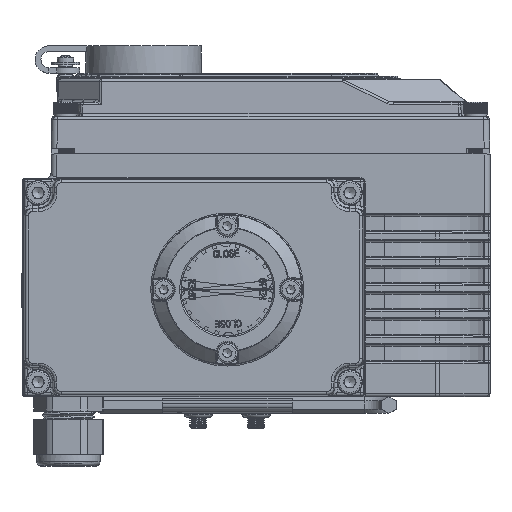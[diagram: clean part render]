
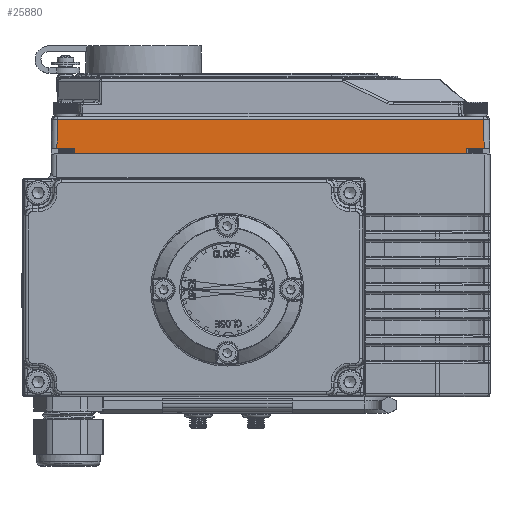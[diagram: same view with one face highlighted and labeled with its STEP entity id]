
A CAD part, top view. The second image highlights one B-rep face of the part: STEP entity #25880.
In plain terms, the highlighted planar face has unit normal (0, 0.018, 1).
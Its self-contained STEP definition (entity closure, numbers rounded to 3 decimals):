
#25880=ADVANCED_FACE('',(#81194),#81196,.T.);
#81194=FACE_BOUND('',#81195,.T.);
#81195=EDGE_LOOP('',(#144173,#144174,#144175,#144176,#144177,#144178,#144179,#144180));
#81196=PLANE('',#81197);
#81197=AXIS2_PLACEMENT_3D('',#81198,#81199,#81200);
#81198=CARTESIAN_POINT('',(2770.153,4613.997,178.322));
#81199=DIRECTION('',(0.,0.017,1.));
#81200=DIRECTION('',(0.,-1.,0.017));
#144173=ORIENTED_EDGE('',*,*,#168720,.T.);
#144174=ORIENTED_EDGE('',*,*,#168721,.T.);
#144175=ORIENTED_EDGE('',*,*,#168722,.T.);
#144176=ORIENTED_EDGE('',*,*,#168723,.F.);
#144177=ORIENTED_EDGE('',*,*,#168724,.T.);
#144178=ORIENTED_EDGE('',*,*,#162508,.T.);
#144179=ORIENTED_EDGE('',*,*,#168725,.F.);
#144180=ORIENTED_EDGE('',*,*,#168726,.F.);
#162508=EDGE_CURVE('',#177879,#177841,#179411,.T.);
#168720=EDGE_CURVE('',#189488,#189174,#189489,.T.);
#168721=EDGE_CURVE('',#189174,#189490,#189491,.T.);
#168722=EDGE_CURVE('',#189490,#189492,#189493,.T.);
#168723=EDGE_CURVE('',#189494,#189492,#189495,.T.);
#168724=EDGE_CURVE('',#189494,#177879,#189496,.T.);
#168725=EDGE_CURVE('',#189497,#177841,#189498,.T.);
#168726=EDGE_CURVE('',#189488,#189497,#189499,.T.);
#177841=VERTEX_POINT('',#212867);
#177879=VERTEX_POINT('',#212951);
#179411=LINE('',#218222,#218223);
#189174=VERTEX_POINT('',#265135);
#189488=VERTEX_POINT('',#282450);
#189489=LINE('',#282451,#282452);
#189490=VERTEX_POINT('',#282454);
#189491=LINE('',#282455,#282456);
#189492=VERTEX_POINT('',#282458);
#189493=LINE('',#282459,#282460);
#189494=VERTEX_POINT('',#282462);
#189495=LINE('',#282463,#282464);
#189496=LINE('',#282466,#282467);
#189497=VERTEX_POINT('',#282469);
#189498=LINE('',#282470,#282471);
#189499=LINE('',#282473,#282474);
#212867=CARTESIAN_POINT('',(2762.153,4613.997,178.322));
#212951=CARTESIAN_POINT('',(2626.153,4613.997,178.322));
#218222=CARTESIAN_POINT('',(2626.153,4613.997,178.322));
#218223=VECTOR('',#218224,1.);
#218224=DIRECTION('',(1.,0.,0.));
#265135=CARTESIAN_POINT('',(2767.944,4626.015,178.113));
#282450=CARTESIAN_POINT('',(2768.119,4615.997,178.288));
#282451=CARTESIAN_POINT('',(2768.119,4615.997,178.288));
#282452=VECTOR('',#282453,1.);
#282453=DIRECTION('',(-0.017,1.,-0.017));
#282454=CARTESIAN_POINT('',(2620.363,4626.015,178.113));
#282455=CARTESIAN_POINT('',(2767.944,4626.015,178.113));
#282456=VECTOR('',#282457,1.);
#282457=DIRECTION('',(-1.,0.,0.));
#282458=CARTESIAN_POINT('',(2620.188,4615.997,178.288));
#282459=CARTESIAN_POINT('',(2620.363,4626.015,178.113));
#282460=VECTOR('',#282461,1.);
#282461=DIRECTION('',(-0.017,-1.,0.017));
#282462=CARTESIAN_POINT('',(2626.153,4615.997,178.288));
#282463=CARTESIAN_POINT('',(2626.153,4615.997,178.288));
#282464=VECTOR('',#282465,1.);
#282465=DIRECTION('',(-1.,0.,0.));
#282466=CARTESIAN_POINT('',(2626.153,4615.997,178.288));
#282467=VECTOR('',#282468,1.);
#282468=DIRECTION('',(0.,-1.,0.017));
#282469=CARTESIAN_POINT('',(2762.153,4615.997,178.288));
#282470=CARTESIAN_POINT('',(2762.153,4615.997,178.288));
#282471=VECTOR('',#282472,1.);
#282472=DIRECTION('',(0.,-1.,0.017));
#282473=CARTESIAN_POINT('',(2768.119,4615.997,178.288));
#282474=VECTOR('',#282475,1.);
#282475=DIRECTION('',(-1.,0.,0.));
